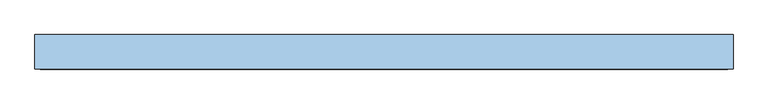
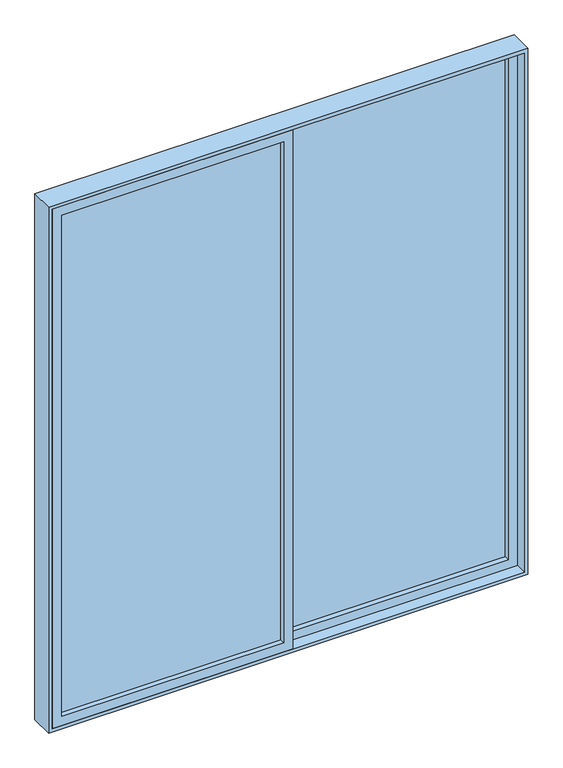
"""IFC4 building model written with IfcOpenShell, lengths in millimetres: window geometry, VENT_ALUM_CORR_2HOJAS_CORRE 1 : V17-VENT_ALUM_CORR_2HOJAS_CORRE 2 - SALIDA REC PH 2."""

from ifc_helpers import new_model, si_unit, frame, origin, place, context, project, spatial, polyline, outline, extrude, source, transform, mapped, element, save


def window_2ffae9cd(model_context):
    return source(origin(), model_context, "Body", "SweptSolid", [
        extrude(outline(polyline([(-20.0, -28.0), (-958.15, -28.0), (-958.15, -22.0), (-20.0, -22.0), (-20.0, -28.0)])), frame((0.0, 0.0, 55.0), z_axis=(0.0, 0.0, 1.0), x_axis=(1.0, 0.0, 0.0)), (0.0, 0.0, 1.0), 2240.0),
        extrude(outline(polyline([(15.0, -998.15), (15.0, 20.0), (2335.0, 20.0), (2335.0, -998.15), (15.0, -998.15)]), holes=[polyline([(2295.0, -958.15), (2295.0, -20.0), (55.0, -20.0), (55.0, -958.15), (2295.0, -958.15)])]), frame((0.0, -50.0, 0.0), z_axis=(0.0, 1.0, 0.0), x_axis=(0.0, 0.0, 1.0)), (0.0, 0.0, 1.0), 50.0),
        extrude(outline(polyline([(20.0, 28.0), (958.15, 28.0), (958.15, 22.0), (20.0, 22.0), (20.0, 28.0)])), frame((0.0, 0.0, 55.0), z_axis=(0.0, 0.0, 1.0), x_axis=(1.0, 0.0, 0.0)), (0.0, 0.0, 1.0), 2240.0),
        extrude(outline(polyline([(15.0, -20.0), (15.0, 998.15), (2335.0, 998.15), (2335.0, -20.0), (15.0, -20.0)]), holes=[polyline([(2295.0, 20.0), (2295.0, 958.15), (55.0, 958.15), (55.0, 20.0), (2295.0, 20.0)])]), frame((0.0, 0.0, 0.0), z_axis=(0.0, 1.0, 0.0), x_axis=(0.0, 0.0, 1.0)), (0.0, 0.0, 1.0), 50.0),
        extrude(outline(polyline([(0.0, -1013.15), (0.0, 1013.15), (2350.0, 1013.15), (2350.0, -1013.15), (0.0, -1013.15)]), holes=[polyline([(2335.0, -998.15), (2335.0, 998.15), (15.0, 998.15), (15.0, -998.15), (2335.0, -998.15)])]), frame((0.0, -50.0, 0.0), z_axis=(0.0, 1.0, 0.0), x_axis=(0.0, 0.0, 1.0)), (0.0, 0.0, 1.0), 100.0),
    ])


if __name__ == "__main__":
    model = new_model("IFC4")
    model_context = context("Model", 3, world=origin())
    ifc_project = project(units=[si_unit("LENGTHUNIT", "METRE", prefix="MILLI")], contexts=[model_context])
    site = spatial("IfcSite", under=ifc_project)
    building = spatial("IfcBuilding", under=site)
    placement = place(None, origin())
    window_shape = window_2ffae9cd(model_context)
    element("IfcWindow", 1, ObjectType="VENT_ALUM_CORR_2HOJAS_CORRE 1 : V17-VENT_ALUM_CORR_2HOJAS_CORRE 2 - SALIDA REC PH 2", at=placement, inside=building, context=model_context, shape_type="MappedRepresentation", body=[
        mapped(window_shape, transform((0.0, 0.0, 0.0), x_axis=(1.0, 0.0, 0.0), y_axis=(0.0, 1.0, 0.0), z_axis=(0.0, 0.0, 1.0))),
    ])
    save(model, "model.ifc")
